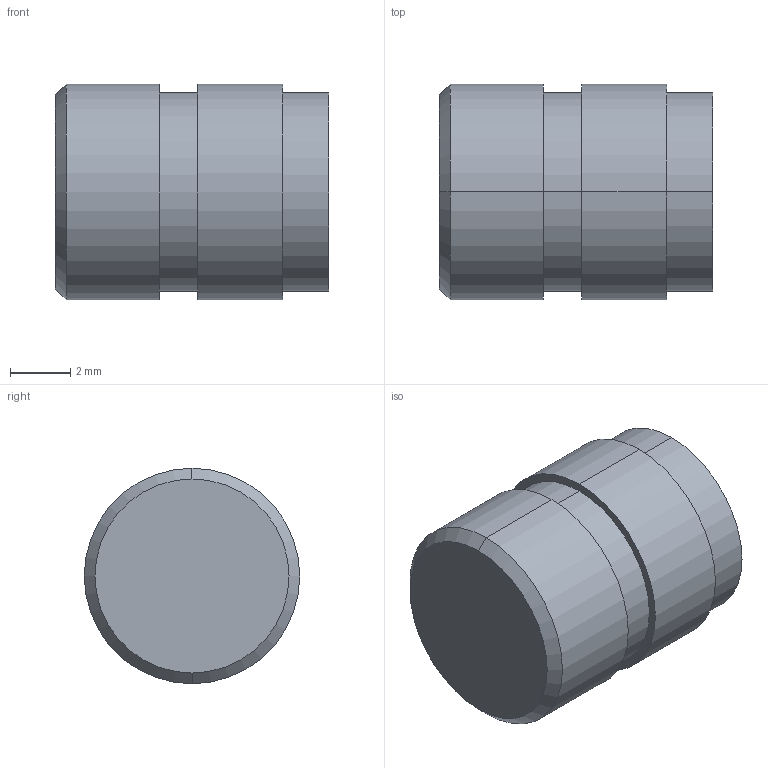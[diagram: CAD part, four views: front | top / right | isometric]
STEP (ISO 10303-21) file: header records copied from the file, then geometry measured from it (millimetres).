
FILE_DESCRIPTION(('starvars output'),'2;1');
FILE_NAME('cv20190722134232000028415.stp','13:42:32 2019/07/22',( 'Thomas Industrial Network Germany GmbH'),( 'Thomas Industrial Network Germany GmbH'),'unknown preprocess','ACIS' ,'unknown authorization');
FILE_SCHEMA(('AUTOMOTIVE_DESIGN_CC2 {UNKNOWN IMPLEMENTATION LEVEL}'));
Length unit declared in the file: millimetre
Products named in the file (1): PRODUCT_ID_1
Bounding box: 9.04 x 7.14 x 7.14 mm (x, y, z)
Volume: 256.3 mm3; surface area: 371.3 mm2
Topology: 1 solids, 1 shells, 24 faces, 48 edges, 29 vertices
Faces by surface type: cylinder 12, plane 6, cone 6
Entity records: 778 total; most frequent: ORIENTED_EDGE 92, CARTESIAN_POINT 76, DIRECTION 76, EDGE_CURVE 46, VERTEX_POINT 29, AXIS2_PLACEMENT_3D 29, EDGE_LOOP 29, FACE_BOUND 29
